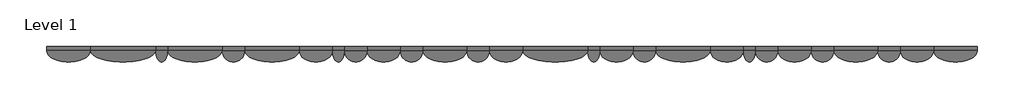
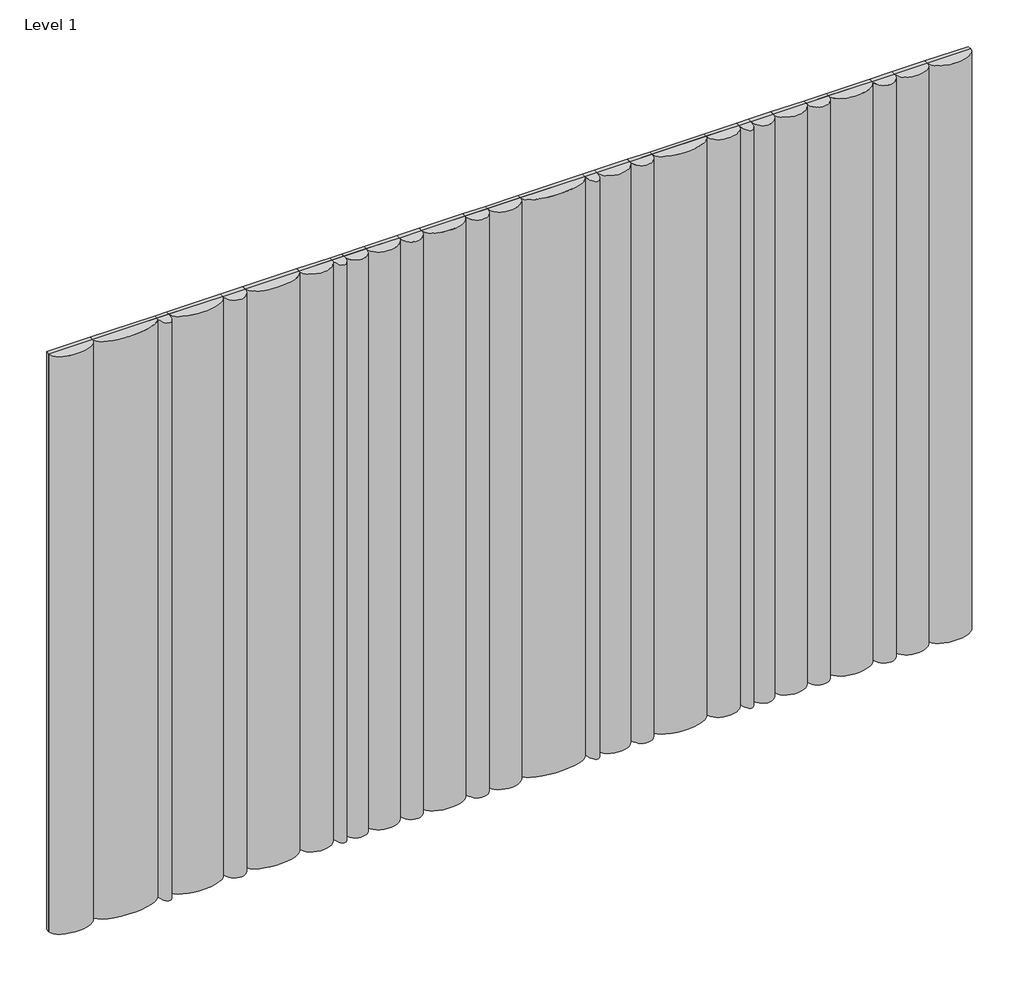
# One storey: 28 proxies.
"""IFC4 building model written with IfcOpenShell, lengths in millimetres."""

from ifc_helpers import new_model, si_unit, origin, place, context, project, spatial, transform, mapped, element, save
from components import specialty_equipment_105ff39a, specialty_equipment_0e2ca00c, specialty_equipment_4fac8ed0, specialty_equipment_104b1e71, specialty_equipment_eae570ff, specialty_equipment_42482238

model = new_model("IFC4")

# Units and contexts
model_context = context("Model", 3, world=origin())
ifc_project = project(units=[si_unit("LENGTHUNIT", "METRE", prefix="MILLI")], contexts=[model_context])

# Site, building, storey
site = spatial("IfcSite", under=ifc_project)
building = spatial("IfcBuilding", under=site)
storey = spatial("IfcBuildingStorey", under=building, Name="Level 1", Elevation=0.0)

# Proxies
placement = place(None, origin())
specialty_equipment_shape = specialty_equipment_105ff39a(model_context)
element("IfcBuildingElementProxy", 1, Name="Spinneybeck_ARO Plank 1 : A - 4 1/4 in (10.8 cm)", ObjectType="Spinneybeck_ARO Plank 1 : A - 4 1/4 in (10.8 cm)", at=placement, inside=storey, context=model_context, shape_type="MappedRepresentation", body=[
    mapped(specialty_equipment_shape, transform((-18062.3881386, 525.5178844, -8.8724664), x_axis=(1.0, 0.0, 0.0), y_axis=(0.0, 0.0, 1.0), z_axis=(0.0, -1.0, 0.0))),
])
element("IfcBuildingElementProxy", 2, Name="Spinneybeck_ARO Plank 1 : A - 4 1/4 in (10.8 cm)", ObjectType="Spinneybeck_ARO Plank 1 : A - 4 1/4 in (10.8 cm)", at=placement, inside=storey, context=model_context, shape_type="MappedRepresentation", body=[
    mapped(specialty_equipment_shape, transform((-17478.1881386, 525.5178844, -8.8724664), x_axis=(1.0, 0.0, 0.0), y_axis=(0.0, 0.0, 1.0), z_axis=(0.0, -1.0, 0.0))),
])
element("IfcBuildingElementProxy", 3, Name="Spinneybeck_ARO Plank 1 : A - 4 1/4 in (10.8 cm)", ObjectType="Spinneybeck_ARO Plank 1 : A - 4 1/4 in (10.8 cm)", at=placement, inside=storey, context=model_context, shape_type="MappedRepresentation", body=[
    mapped(specialty_equipment_shape, transform((-17211.4881386, 525.5178844, -8.8724664), x_axis=(1.0, 0.0, 0.0), y_axis=(0.0, 0.0, 1.0), z_axis=(0.0, -1.0, 0.0))),
])
element("IfcBuildingElementProxy", 4, Name="Spinneybeck_ARO Plank 1 : A - 4 1/4 in (10.8 cm)", ObjectType="Spinneybeck_ARO Plank 1 : A - 4 1/4 in (10.8 cm)", at=placement, inside=storey, context=model_context, shape_type="MappedRepresentation", body=[
    mapped(specialty_equipment_shape, transform((-16893.9881386, 525.5178844, -8.8724664), x_axis=(1.0, 0.0, 0.0), y_axis=(0.0, 0.0, 1.0), z_axis=(0.0, -1.0, 0.0))),
])
element("IfcBuildingElementProxy", 5, Name="Spinneybeck_ARO Plank 1 : A - 4 1/4 in (10.8 cm)", ObjectType="Spinneybeck_ARO Plank 1 : A - 4 1/4 in (10.8 cm)", at=placement, inside=storey, context=model_context, shape_type="MappedRepresentation", body=[
    mapped(specialty_equipment_shape, transform((-16100.2381386, 525.5178844, -8.8724664), x_axis=(1.0, 0.0, 0.0), y_axis=(0.0, 0.0, 1.0), z_axis=(0.0, -1.0, 0.0))),
])
element("IfcBuildingElementProxy", 6, Name="Spinneybeck_ARO Plank 1 : A - 4 1/4 in (10.8 cm)", ObjectType="Spinneybeck_ARO Plank 1 : A - 4 1/4 in (10.8 cm)", at=placement, inside=storey, context=model_context, shape_type="MappedRepresentation", body=[
    mapped(specialty_equipment_shape, transform((-15516.0381386, 525.5178844, -8.8724664), x_axis=(1.0, 0.0, 0.0), y_axis=(0.0, 0.0, 1.0), z_axis=(0.0, -1.0, 0.0))),
])
element("IfcBuildingElementProxy", 7, Name="Spinneybeck_ARO Plank 1 : A - 4 1/4 in (10.8 cm)", ObjectType="Spinneybeck_ARO Plank 1 : A - 4 1/4 in (10.8 cm)", at=placement, inside=storey, context=model_context, shape_type="MappedRepresentation", body=[
    mapped(specialty_equipment_shape, transform((-15249.3381386, 525.5178844, -8.8724664), x_axis=(1.0, 0.0, 0.0), y_axis=(0.0, 0.0, 1.0), z_axis=(0.0, -1.0, 0.0))),
])
element("IfcBuildingElementProxy", 8, Name="Spinneybeck_ARO Plank 1 : A - 4 1/4 in (10.8 cm)", ObjectType="Spinneybeck_ARO Plank 1 : A - 4 1/4 in (10.8 cm)", at=placement, inside=storey, context=model_context, shape_type="MappedRepresentation", body=[
    mapped(specialty_equipment_shape, transform((-14931.8381386, 525.5178844, -8.8724664), x_axis=(1.0, 0.0, 0.0), y_axis=(0.0, 0.0, 1.0), z_axis=(0.0, -1.0, 0.0))),
])
specialty_equipment_2_shape = specialty_equipment_0e2ca00c(model_context)
element("IfcBuildingElementProxy", 9, Name="Spinneybeck_ARO Plank 1 : B - 2 1/4 in (5.7 cm)", ObjectType="Spinneybeck_ARO Plank 1 : B - 2 1/4 in (5.7 cm)", at=placement, inside=storey, context=model_context, shape_type="MappedRepresentation", body=[
    mapped(specialty_equipment_2_shape, transform((-18405.2881386, 525.5178844, -8.8724664), x_axis=(1.0, 0.0, 0.0), y_axis=(0.0, 0.0, 1.0), z_axis=(0.0, -1.0, 0.0))),
])
element("IfcBuildingElementProxy", 10, Name="Spinneybeck_ARO Plank 1 : B - 2 1/4 in (5.7 cm)", ObjectType="Spinneybeck_ARO Plank 1 : B - 2 1/4 in (5.7 cm)", at=placement, inside=storey, context=model_context, shape_type="MappedRepresentation", body=[
    mapped(specialty_equipment_2_shape, transform((-17560.7381386, 525.5178844, -8.8724664), x_axis=(1.0, 0.0, 0.0), y_axis=(0.0, 0.0, 1.0), z_axis=(0.0, -1.0, 0.0))),
])
element("IfcBuildingElementProxy", 11, Name="Spinneybeck_ARO Plank 1 : B - 2 1/4 in (5.7 cm)", ObjectType="Spinneybeck_ARO Plank 1 : B - 2 1/4 in (5.7 cm)", at=placement, inside=storey, context=model_context, shape_type="MappedRepresentation", body=[
    mapped(specialty_equipment_2_shape, transform((-16341.5381386, 525.5178844, -8.8724664), x_axis=(1.0, 0.0, 0.0), y_axis=(0.0, 0.0, 1.0), z_axis=(0.0, -1.0, 0.0))),
])
element("IfcBuildingElementProxy", 12, Name="Spinneybeck_ARO Plank 1 : B - 2 1/4 in (5.7 cm)", ObjectType="Spinneybeck_ARO Plank 1 : B - 2 1/4 in (5.7 cm)", at=placement, inside=storey, context=model_context, shape_type="MappedRepresentation", body=[
    mapped(specialty_equipment_2_shape, transform((-15598.5881386, 525.5178844, -8.8724664), x_axis=(1.0, 0.0, 0.0), y_axis=(0.0, 0.0, 1.0), z_axis=(0.0, -1.0, 0.0))),
])
specialty_equipment_3_shape = specialty_equipment_4fac8ed0(model_context)
element("IfcBuildingElementProxy", 13, Name="Spinneybeck_ARO Plank 1 : C - 6 1/4 in (15.9 cm)", ObjectType="Spinneybeck_ARO Plank 1 : C - 6 1/4 in (15.9 cm)", at=placement, inside=storey, context=model_context, shape_type="MappedRepresentation", body=[
    mapped(specialty_equipment_3_shape, transform((-17668.6881386, 525.5178844, -8.8724664), x_axis=(1.0, 0.0, 0.0), y_axis=(0.0, 0.0, 1.0), z_axis=(0.0, -1.0, 0.0))),
])
element("IfcBuildingElementProxy", 14, Name="Spinneybeck_ARO Plank 1 : C - 6 1/4 in (15.9 cm)", ObjectType="Spinneybeck_ARO Plank 1 : C - 6 1/4 in (15.9 cm)", at=placement, inside=storey, context=model_context, shape_type="MappedRepresentation", body=[
    mapped(specialty_equipment_3_shape, transform((-17344.8381386, 525.5178844, -8.8724664), x_axis=(1.0, 0.0, 0.0), y_axis=(0.0, 0.0, 1.0), z_axis=(0.0, -1.0, 0.0))),
])
element("IfcBuildingElementProxy", 15, Name="Spinneybeck_ARO Plank 1 : C - 6 1/4 in (15.9 cm)", ObjectType="Spinneybeck_ARO Plank 1 : C - 6 1/4 in (15.9 cm)", at=placement, inside=storey, context=model_context, shape_type="MappedRepresentation", body=[
    mapped(specialty_equipment_3_shape, transform((-16760.6381386, 525.5178844, -8.8724664), x_axis=(1.0, 0.0, 0.0), y_axis=(0.0, 0.0, 1.0), z_axis=(0.0, -1.0, 0.0))),
])
element("IfcBuildingElementProxy", 16, Name="Spinneybeck_ARO Plank 1 : C - 6 1/4 in (15.9 cm)", ObjectType="Spinneybeck_ARO Plank 1 : C - 6 1/4 in (15.9 cm)", at=placement, inside=storey, context=model_context, shape_type="MappedRepresentation", body=[
    mapped(specialty_equipment_3_shape, transform((-16233.5881386, 525.5178844, -8.8724664), x_axis=(1.0, 0.0, 0.0), y_axis=(0.0, 0.0, 1.0), z_axis=(0.0, -1.0, 0.0))),
])
element("IfcBuildingElementProxy", 17, Name="Spinneybeck_ARO Plank 1 : C - 6 1/4 in (15.9 cm)", ObjectType="Spinneybeck_ARO Plank 1 : C - 6 1/4 in (15.9 cm)", at=placement, inside=storey, context=model_context, shape_type="MappedRepresentation", body=[
    mapped(specialty_equipment_3_shape, transform((-15706.5381386, 525.5178844, -8.8724664), x_axis=(1.0, 0.0, 0.0), y_axis=(0.0, 0.0, 1.0), z_axis=(0.0, -1.0, 0.0))),
])
element("IfcBuildingElementProxy", 18, Name="Spinneybeck_ARO Plank 1 : C - 6 1/4 in (15.9 cm)", ObjectType="Spinneybeck_ARO Plank 1 : C - 6 1/4 in (15.9 cm)", at=placement, inside=storey, context=model_context, shape_type="MappedRepresentation", body=[
    mapped(specialty_equipment_3_shape, transform((-15382.6881386, 525.5178844, -8.8724664), x_axis=(1.0, 0.0, 0.0), y_axis=(0.0, 0.0, 1.0), z_axis=(0.0, -1.0, 0.0))),
])
element("IfcBuildingElementProxy", 19, Name="Spinneybeck_ARO Plank 1 : C - 6 1/4 in (15.9 cm)", ObjectType="Spinneybeck_ARO Plank 1 : C - 6 1/4 in (15.9 cm)", at=placement, inside=storey, context=model_context, shape_type="MappedRepresentation", body=[
    mapped(specialty_equipment_3_shape, transform((-14798.4881386, 525.5178844, -8.8724664), x_axis=(1.0, 0.0, 0.0), y_axis=(0.0, 0.0, 1.0), z_axis=(0.0, -1.0, 0.0))),
])
specialty_equipment_4_shape = specialty_equipment_104b1e71(model_context)
element("IfcBuildingElementProxy", 20, Name="Spinneybeck_ARO Plank 1 : D - 8 1/4 in (21.0 cm)", ObjectType="Spinneybeck_ARO Plank 1 : D - 8 1/4 in (21.0 cm)", at=placement, inside=storey, context=model_context, shape_type="MappedRepresentation", body=[
    mapped(specialty_equipment_4_shape, transform((-18849.7881386, 525.5178844, -8.8724664), x_axis=(1.0, 0.0, 0.0), y_axis=(0.0, 0.0, 1.0), z_axis=(0.0, -1.0, 0.0))),
])
element("IfcBuildingElementProxy", 21, Name="Spinneybeck_ARO Plank 1 : D - 8 1/4 in (21.0 cm)", ObjectType="Spinneybeck_ARO Plank 1 : D - 8 1/4 in (21.0 cm)", at=placement, inside=storey, context=model_context, shape_type="MappedRepresentation", body=[
    mapped(specialty_equipment_4_shape, transform((-17052.7381386, 525.5178844, -8.8724664), x_axis=(1.0, 0.0, 0.0), y_axis=(0.0, 0.0, 1.0), z_axis=(0.0, -1.0, 0.0))),
])
element("IfcBuildingElementProxy", 22, Name="Spinneybeck_ARO Plank 1 : D - 8 1/4 in (21.0 cm)", ObjectType="Spinneybeck_ARO Plank 1 : D - 8 1/4 in (21.0 cm)", at=placement, inside=storey, context=model_context, shape_type="MappedRepresentation", body=[
    mapped(specialty_equipment_4_shape, transform((-15090.5881386, 525.5178844, -8.8724664), x_axis=(1.0, 0.0, 0.0), y_axis=(0.0, 0.0, 1.0), z_axis=(0.0, -1.0, 0.0))),
])
element("IfcBuildingElementProxy", 23, Name="Spinneybeck_ARO Plank 1 : D - 8 1/4 in (21.0 cm)", ObjectType="Spinneybeck_ARO Plank 1 : D - 8 1/4 in (21.0 cm)", at=placement, inside=storey, context=model_context, shape_type="MappedRepresentation", body=[
    mapped(specialty_equipment_4_shape, transform((-14614.3381386, 525.5178844, -8.8724664), x_axis=(1.0, 0.0, 0.0), y_axis=(0.0, 0.0, 1.0), z_axis=(0.0, -1.0, 0.0))),
])
specialty_equipment_5_shape = specialty_equipment_eae570ff(model_context)
element("IfcBuildingElementProxy", 24, Name="Spinneybeck_ARO Plank 1 : E - 10 1/4 in (26.0 cm)", ObjectType="Spinneybeck_ARO Plank 1 : E - 10 1/4 in (26.0 cm)", at=placement, inside=storey, context=model_context, shape_type="MappedRepresentation", body=[
    mapped(specialty_equipment_5_shape, transform((-18246.5381386, 525.5178844, -8.8724664), x_axis=(1.0, 0.0, 0.0), y_axis=(0.0, 0.0, 1.0), z_axis=(0.0, -1.0, 0.0))),
])
element("IfcBuildingElementProxy", 25, Name="Spinneybeck_ARO Plank 1 : E - 10 1/4 in (26.0 cm)", ObjectType="Spinneybeck_ARO Plank 1 : E - 10 1/4 in (26.0 cm)", at=placement, inside=storey, context=model_context, shape_type="MappedRepresentation", body=[
    mapped(specialty_equipment_5_shape, transform((-17878.2381386, 525.5178844, -8.8724664), x_axis=(1.0, 0.0, 0.0), y_axis=(0.0, 0.0, 1.0), z_axis=(0.0, -1.0, 0.0))),
])
element("IfcBuildingElementProxy", 26, Name="Spinneybeck_ARO Plank 1 : E - 10 1/4 in (26.0 cm)", ObjectType="Spinneybeck_ARO Plank 1 : E - 10 1/4 in (26.0 cm)", at=placement, inside=storey, context=model_context, shape_type="MappedRepresentation", body=[
    mapped(specialty_equipment_5_shape, transform((-15916.0881386, 525.5178844, -8.8724664), x_axis=(1.0, 0.0, 0.0), y_axis=(0.0, 0.0, 1.0), z_axis=(0.0, -1.0, 0.0))),
])
specialty_equipment_6_shape = specialty_equipment_42482238(model_context)
element("IfcBuildingElementProxy", 27, Name="Spinneybeck_ARO Plank 1 : F - 1’-0 1/4” (31.1 cm)", ObjectType="Spinneybeck_ARO Plank 1 : F - 1’-0 1/4” (31.1 cm)", at=placement, inside=storey, context=model_context, shape_type="MappedRepresentation", body=[
    mapped(specialty_equipment_6_shape, transform((-18589.4381386, 525.5178844, -8.8724664), x_axis=(1.0, 0.0, 0.0), y_axis=(0.0, 0.0, 1.0), z_axis=(0.0, -1.0, 0.0))),
])
element("IfcBuildingElementProxy", 28, Name="Spinneybeck_ARO Plank 1 : F - 1’-0 1/4” (31.1 cm)", ObjectType="Spinneybeck_ARO Plank 1 : F - 1’-0 1/4” (31.1 cm)", at=placement, inside=storey, context=model_context, shape_type="MappedRepresentation", body=[
    mapped(specialty_equipment_6_shape, transform((-16525.6881386, 525.5178844, -8.8724664), x_axis=(1.0, 0.0, 0.0), y_axis=(0.0, 0.0, 1.0), z_axis=(0.0, -1.0, 0.0))),
])

save(model, "model.ifc")
